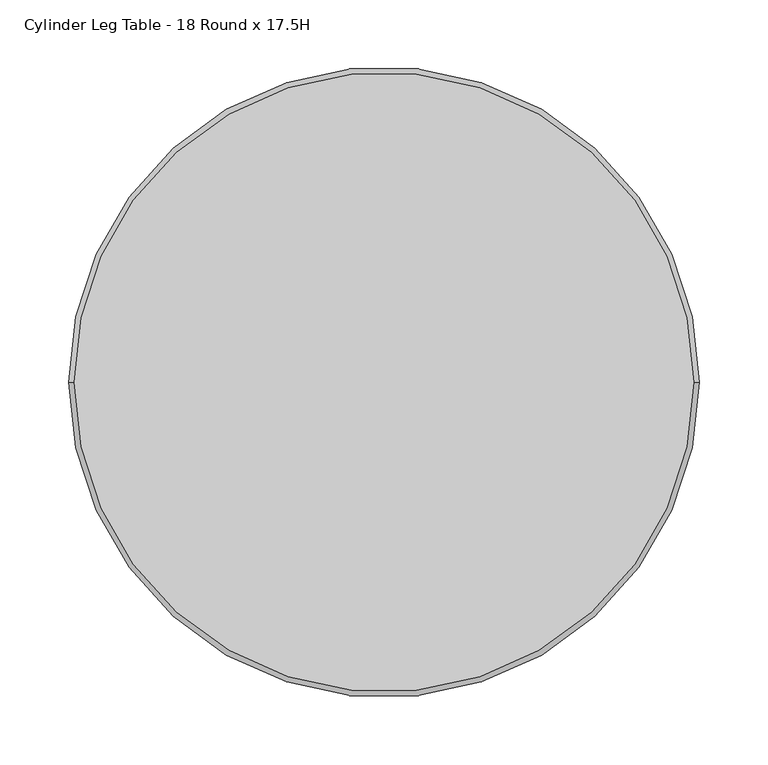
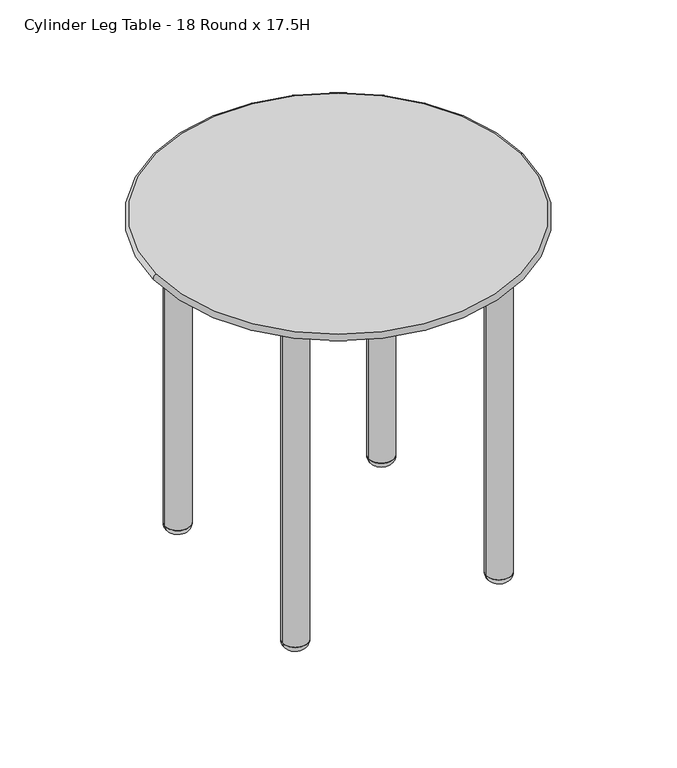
"""IFC4 building model written with IfcOpenShell, lengths in millimetres: furniture geometry, Integra - Coastal Collection - Coastal Metal Tables - Freestanding Table : Cylinder Leg Table - 18 Round x 17.5H."""

from ifc_helpers import new_model, si_unit, point, frame, frame_2d, origin, origin_2d, place, context, project, spatial, circle_curve, ellipse_curve, trimmed, segment, composite_curve, outline, extrude, source, transform, mapped, element, save
from ifc_brep_helpers import plane_surface, revolved_surface, advanced_brep


def cylinder_leg_table_18_round_x_17_5h_52528be8(model_context):
    return source(origin(), model_context, "Body", "SolidModel", [
        advanced_brep(
        [(-203.184015, 0.0, 431.7999939), (203.184015, 0.0, 431.7999939), (224.6380192, 0.0, 444.5), (-224.6380192, 0.0, 444.5), (226.3187402, 0.0, 436.9501969), (-226.3187402, 0.0, 436.9501969)],
        [
            (0, 1, circle_curve(frame((0.0, 0.0, 431.7999939), z_axis=(0.0, 0.0, -1.0), x_axis=(1.0, 0.0, 0.0)), 203.184015)),
            (1, 0, circle_curve(frame((0.0, 0.0, 431.7999939), z_axis=(0.0, 0.0, -1.0), x_axis=(-1.0, 0.0, 0.0)), 203.184015)),
            (2, 3, circle_curve(frame((0.0, 0.0, 444.5), z_axis=(0.0, 0.0, 1.0), x_axis=(1.0, 0.0, 0.0)), 224.6380192)),
            (3, 2, circle_curve(frame((0.0, 0.0, 444.5), z_axis=(0.0, 0.0, 1.0), x_axis=(-1.0, 0.0, 0.0)), 224.6380192)),
            (2, 4, circle_curve(frame((224.6380192, 0.0, 440.5380192), z_axis=(0.0, 1.0, 0.0), x_axis=(-1.0, 0.0, 0.0)), 3.9619808)),
            (4, 5, circle_curve(frame((0.0, 0.0, 436.9501969), z_axis=(0.0, 0.0, 1.0), x_axis=(1.0, 0.0, 0.0)), 226.3187402)),
            (5, 3, circle_curve(frame((-224.6380192, 0.0, 440.5380192), z_axis=(0.0, 1.0, 0.0), x_axis=(1.0, 0.0, 0.0)), 3.9619808)),
            (4, 1, circle_curve(frame((203.184015, 0.0, 486.3357186), z_axis=(0.0, 1.0, 0.0), x_axis=(-1.0, 0.0, 0.0)), 54.5357246)),
            (0, 5, circle_curve(frame((-203.184015, 0.0, 486.3357186), z_axis=(0.0, 1.0, 0.0), x_axis=(1.0, 0.0, 0.0)), 54.5357246)),
            (5, 4, circle_curve(frame((0.0, 0.0, 436.9501969), z_axis=(0.0, 0.0, 1.0), x_axis=(-1.0, 0.0, 0.0)), 226.3187402)),
        ],
        [
            plane_surface(frame((-25.4, 0.0, 431.7999939), z_axis=(0.0, 0.0, -1.0), x_axis=(0.0, 1.0, 0.0))),
            plane_surface(frame((-25.4, 0.0, 444.5), z_axis=(0.0, 0.0, 1.0), x_axis=(0.0, -1.0, 0.0))),
            revolved_surface(trimmed(ellipse_curve(frame((224.6380192, 0.0, 440.5380192), z_axis=(0.0, -1.0, 0.0), x_axis=(-1.0, 0.0, 0.0)), 3.9619808, 3.9619808), [point((226.3187402, 0.0, 436.9501969))], [point((224.6380192, 0.0, 444.5))], True, "CARTESIAN"), (0.0, 0.0, 444.5), (0.0, 0.0, 1.0)),
            revolved_surface(trimmed(ellipse_curve(frame((203.184015, 0.0, 486.3357186), z_axis=(0.0, -1.0, 0.0), x_axis=(-1.0, 0.0, 0.0)), 54.5357246, 54.5357246), [point((203.184015, 0.0, 431.7999939))], [point((226.3187402, 0.0, 436.9501969))], True, "CARTESIAN"), (0.0, 0.0, 444.5), (0.0, 0.0, 1.0)),
            revolved_surface(trimmed(ellipse_curve(frame((-224.6380192, 0.0, 440.5380192), z_axis=(0.0, 1.0, 0.0), x_axis=(1.0, 0.0, 0.0)), 3.9619808, 3.9619808), [point((-226.3187402, 0.0, 436.9501969))], [point((-224.6380192, 0.0, 444.5))], True, "CARTESIAN"), (0.0, 0.0, 444.5), (0.0, 0.0, 1.0)),
            revolved_surface(trimmed(ellipse_curve(frame((-203.184015, 0.0, 486.3357186), z_axis=(0.0, 1.0, 0.0), x_axis=(1.0, 0.0, 0.0)), 54.5357246, 54.5357246), [point((-203.184015, 0.0, 431.7999939))], [point((-226.3187402, 0.0, 436.9501969))], True, "CARTESIAN"), (0.0, 0.0, 444.5), (0.0, 0.0, 1.0)),
        ],
        [
            (0, [[1, 2]]),
            (1, [[3, 4]]),
            (2, [[-3, 5, 6, 7]]),
            (3, [[-6, 8, -1, 9]]),
            (4, [[-5, -4, -7, 10]]),
            (5, [[-8, -10, -9, -2]]),
        ],
    ),
        extrude(outline(composite_curve([segment(trimmed(circle_curve(origin_2d(), 203.2), [point((-203.2, 0.0))], [point((203.2, 0.0))], False, "CARTESIAN"), True, "CONTINUOUS"), segment(trimmed(circle_curve(origin_2d(), 203.2), [point((203.2, 0.0))], [point((-203.2, 0.0))], False, "CARTESIAN"), True, "CONTINUOUS")], self_intersect=False)), frame((0.0, 0.0, 425.4499939), z_axis=(0.0, 0.0, 1.0), x_axis=(1.0, 0.0, 0.0)), (0.0, 0.0, 1.0), 6.35),
        advanced_brep(
        [(-141.3679796, 125.7235857, 9.5239742), (-110.0791918, 125.7235857, 9.5239742), (-125.7235857, 125.7235857, 9.5239742), (-131.8429796, 125.7235857, -0.0010258), (-119.6041918, 125.7235857, -0.0010258), (-125.7235857, 125.7235857, -0.0010258)],
        [
            (0, 1, circle_curve(frame((-125.7235857, 125.7235857, 9.5239742), z_axis=(0.0, 0.0, 1.0), x_axis=(1.0, 0.0, 0.0)), 15.6443939)),
            (1, 2),
            (2, 0),
            (1, 0, circle_curve(frame((-125.7235857, 125.7235857, 9.5239742), z_axis=(0.0, 0.0, 1.0), x_axis=(1.0, 0.0, 0.0)), 15.6443939)),
            (3, 4, circle_curve(frame((-125.7235857, 125.7235857, -0.0010258), z_axis=(0.0, 0.0, 1.0), x_axis=(1.0, 0.0, 0.0)), 6.1193939)),
            (4, 1, circle_curve(frame((-119.6041918, 125.7235857, 9.5239742), z_axis=(0.0, -1.0, 0.0), x_axis=(1.0, 0.0, 0.0)), 9.525)),
            (0, 3, circle_curve(frame((-131.8429796, 125.7235857, 9.5239742), z_axis=(0.0, -1.0, 0.0), x_axis=(-1.0, 0.0, 0.0)), 9.525)),
            (4, 3, circle_curve(frame((-125.7235857, 125.7235857, -0.0010258), z_axis=(0.0, 0.0, 1.0), x_axis=(1.0, 0.0, 0.0)), 6.1193939)),
            (5, 4),
            (3, 5),
        ],
        [
            plane_surface(frame((-125.7235857, 125.7235857, 9.5239742), z_axis=(0.0, 0.0, 1.0), x_axis=(1.0, 0.0, 0.0))),
            revolved_surface(trimmed(ellipse_curve(frame((-119.6041918, 125.7235857, 9.5239742), z_axis=(0.0, 1.0, 0.0), x_axis=(1.0, 0.0, 0.0)), 9.525, 9.525), [point((-110.0791918, 125.7235857, 9.5239742))], [point((-119.6041918, 125.7235857, -0.0010258))], True, "CARTESIAN"), (-125.7235857, 125.7235857, -0.0010258), (0.0, 0.0, -1.0)),
            plane_surface(frame((-125.7235857, 125.7235857, -0.0010258), z_axis=(0.0, 0.0, -1.0), x_axis=(1.0, 0.0, 0.0))),
        ],
        [
            (0, [[1, 2, 3]]),
            (0, [[4, -3, -2]]),
            (1, [[5, 6, -1, 7]]),
            (1, [[8, -7, -4, -6]]),
            (2, [[9, -5, 10]]),
            (2, [[-10, -8, -9]]),
        ],
    ),
        advanced_brep(
        [(-125.7235857, -125.7235857, 9.5239742), (-110.0791918, -125.7235857, 9.5239742), (-141.3679796, -125.7235857, 9.5239742), (-119.6041918, -125.7235857, -0.0010258), (-131.8429796, -125.7235857, -0.0010258), (-125.7235857, -125.7235857, -0.0010258)],
        [
            (0, 1),
            (1, 2, circle_curve(frame((-125.7235857, -125.7235857, 9.5239742), z_axis=(0.0, 0.0, 1.0), x_axis=(1.0, 0.0, 0.0)), 15.6443939)),
            (2, 0),
            (2, 1, circle_curve(frame((-125.7235857, -125.7235857, 9.5239742), z_axis=(0.0, 0.0, 1.0), x_axis=(1.0, 0.0, 0.0)), 15.6443939)),
            (1, 3, circle_curve(frame((-119.6041918, -125.7235857, 9.5239742), z_axis=(0.0, 1.0, 0.0), x_axis=(1.0, 0.0, 0.0)), 9.525)),
            (3, 4, circle_curve(frame((-125.7235857, -125.7235857, -0.0010258), z_axis=(0.0, 0.0, 1.0), x_axis=(1.0, 0.0, 0.0)), 6.1193939)),
            (4, 2, circle_curve(frame((-131.8429796, -125.7235857, 9.5239742), z_axis=(0.0, 1.0, 0.0), x_axis=(-1.0, 0.0, 0.0)), 9.525)),
            (4, 3, circle_curve(frame((-125.7235857, -125.7235857, -0.0010258), z_axis=(0.0, 0.0, 1.0), x_axis=(1.0, 0.0, 0.0)), 6.1193939)),
            (3, 5),
            (5, 4),
        ],
        [
            plane_surface(frame((-125.7235857, -125.7235857, 9.5239742), z_axis=(0.0, 0.0, 1.0), x_axis=(1.0, 0.0, 0.0))),
            revolved_surface(trimmed(ellipse_curve(frame((-119.6041918, -125.7235857, 9.5239742), z_axis=(0.0, -1.0, 0.0), x_axis=(1.0, 0.0, 0.0)), 9.525, 9.525), [point((-119.6041918, -125.7235857, -0.0010258))], [point((-110.0791918, -125.7235857, 9.5239742))], True, "CARTESIAN"), (-125.7235857, -125.7235857, -0.0010258), (0.0, 0.0, 1.0)),
            plane_surface(frame((-125.7235857, -125.7235857, -0.0010258), z_axis=(0.0, 0.0, -1.0), x_axis=(1.0, 0.0, 0.0))),
        ],
        [
            (0, [[1, 2, 3]]),
            (0, [[-3, 4, -1]]),
            (1, [[-2, 5, 6, 7]]),
            (1, [[-4, -7, 8, -5]]),
            (2, [[-6, 9, 10]]),
            (2, [[-8, -10, -9]]),
        ],
    ),
        advanced_brep(
        [(125.7235857, 125.7235857, 9.5239742), (110.0791918, 125.7235857, 9.5239742), (141.3679796, 125.7235857, 9.5239742), (119.6041918, 125.7235857, -0.0010258), (131.8429796, 125.7235857, -0.0010258), (125.7235857, 125.7235857, -0.0010258)],
        [
            (0, 1),
            (1, 2, circle_curve(frame((125.7235857, 125.7235857, 9.5239742), z_axis=(0.0, 0.0, 1.0), x_axis=(-1.0, 0.0, 0.0)), 15.6443939)),
            (2, 0),
            (2, 1, circle_curve(frame((125.7235857, 125.7235857, 9.5239742), z_axis=(0.0, 0.0, 1.0), x_axis=(-1.0, 0.0, 0.0)), 15.6443939)),
            (1, 3, circle_curve(frame((119.6041918, 125.7235857, 9.5239742), z_axis=(0.0, -1.0, 0.0), x_axis=(-1.0, 0.0, 0.0)), 9.525)),
            (3, 4, circle_curve(frame((125.7235857, 125.7235857, -0.0010258), z_axis=(0.0, 0.0, 1.0), x_axis=(-1.0, 0.0, 0.0)), 6.1193939)),
            (4, 2, circle_curve(frame((131.8429796, 125.7235857, 9.5239742), z_axis=(0.0, -1.0, 0.0), x_axis=(1.0, 0.0, 0.0)), 9.525)),
            (4, 3, circle_curve(frame((125.7235857, 125.7235857, -0.0010258), z_axis=(0.0, 0.0, 1.0), x_axis=(-1.0, 0.0, 0.0)), 6.1193939)),
            (3, 5),
            (5, 4),
        ],
        [
            plane_surface(frame((125.7235857, 125.7235857, 9.5239742), z_axis=(0.0, 0.0, 1.0), x_axis=(-1.0, 0.0, 0.0))),
            revolved_surface(trimmed(ellipse_curve(frame((119.6041918, 125.7235857, 9.5239742), z_axis=(0.0, 1.0, 0.0), x_axis=(-1.0, 0.0, 0.0)), 9.525, 9.525), [point((119.6041918, 125.7235857, -0.0010258))], [point((110.0791918, 125.7235857, 9.5239742))], True, "CARTESIAN"), (125.7235857, 125.7235857, -0.0010258), (0.0, 0.0, 1.0)),
            plane_surface(frame((125.7235857, 125.7235857, -0.0010258), z_axis=(0.0, 0.0, -1.0), x_axis=(-1.0, 0.0, 0.0))),
        ],
        [
            (0, [[1, 2, 3]]),
            (0, [[-3, 4, -1]]),
            (1, [[-2, 5, 6, 7]]),
            (1, [[-4, -7, 8, -5]]),
            (2, [[-6, 9, 10]]),
            (2, [[-8, -10, -9]]),
        ],
    ),
        advanced_brep(
        [(141.3679796, -125.7235857, 9.5239742), (110.0791918, -125.7235857, 9.5239742), (125.7235857, -125.7235857, 9.5239742), (131.8429796, -125.7235857, -0.0010258), (119.6041918, -125.7235857, -0.0010258), (125.7235857, -125.7235857, -0.0010258)],
        [
            (0, 1, circle_curve(frame((125.7235857, -125.7235857, 9.5239742), z_axis=(0.0, 0.0, 1.0), x_axis=(-1.0, 0.0, 0.0)), 15.6443939)),
            (1, 2),
            (2, 0),
            (1, 0, circle_curve(frame((125.7235857, -125.7235857, 9.5239742), z_axis=(0.0, 0.0, 1.0), x_axis=(-1.0, 0.0, 0.0)), 15.6443939)),
            (3, 4, circle_curve(frame((125.7235857, -125.7235857, -0.0010258), z_axis=(0.0, 0.0, 1.0), x_axis=(-1.0, 0.0, 0.0)), 6.1193939)),
            (4, 1, circle_curve(frame((119.6041918, -125.7235857, 9.5239742), z_axis=(0.0, 1.0, 0.0), x_axis=(-1.0, 0.0, 0.0)), 9.525)),
            (0, 3, circle_curve(frame((131.8429796, -125.7235857, 9.5239742), z_axis=(0.0, 1.0, 0.0), x_axis=(1.0, 0.0, 0.0)), 9.525)),
            (4, 3, circle_curve(frame((125.7235857, -125.7235857, -0.0010258), z_axis=(0.0, 0.0, 1.0), x_axis=(-1.0, 0.0, 0.0)), 6.1193939)),
            (5, 4),
            (3, 5),
        ],
        [
            plane_surface(frame((125.7235857, -125.7235857, 9.5239742), z_axis=(0.0, 0.0, 1.0), x_axis=(-1.0, 0.0, 0.0))),
            revolved_surface(trimmed(ellipse_curve(frame((119.6041918, -125.7235857, 9.5239742), z_axis=(0.0, -1.0, 0.0), x_axis=(-1.0, 0.0, 0.0)), 9.525, 9.525), [point((110.0791918, -125.7235857, 9.5239742))], [point((119.6041918, -125.7235857, -0.0010258))], True, "CARTESIAN"), (125.7235857, -125.7235857, -0.0010258), (0.0, 0.0, -1.0)),
            plane_surface(frame((125.7235857, -125.7235857, -0.0010258), z_axis=(0.0, 0.0, -1.0), x_axis=(-1.0, 0.0, 0.0))),
        ],
        [
            (0, [[1, 2, 3]]),
            (0, [[4, -3, -2]]),
            (1, [[5, 6, -1, 7]]),
            (1, [[8, -7, -4, -6]]),
            (2, [[9, -5, 10]]),
            (2, [[-10, -8, -9]]),
        ],
    ),
        extrude(outline(composite_curve([segment(trimmed(circle_curve(frame_2d((125.7235857, 125.7235857)), 15.6443939), [point((110.0791918, 125.7235857))], [point((141.3679796, 125.7235857))], False, "CARTESIAN"), True, "CONTINUOUS"), segment(trimmed(circle_curve(frame_2d((125.7235857, 125.7235857)), 15.6443939), [point((141.3679796, 125.7235857))], [point((110.0791918, 125.7235857))], False, "CARTESIAN"), True, "CONTINUOUS")], self_intersect=False)), frame((0.0, 0.0, 9.5366915), z_axis=(0.0, 0.0, 1.0), x_axis=(1.0, 0.0, 0.0)), (0.0, 0.0, 1.0), 415.9133025),
        extrude(outline(composite_curve([segment(trimmed(circle_curve(frame_2d((125.7235857, -125.7235857)), 15.6443939), [point((110.0791918, -125.7235857))], [point((141.3679796, -125.7235857))], False, "CARTESIAN"), True, "CONTINUOUS"), segment(trimmed(circle_curve(frame_2d((125.7235857, -125.7235857)), 15.6443939), [point((141.3679796, -125.7235857))], [point((110.0791918, -125.7235857))], False, "CARTESIAN"), True, "CONTINUOUS")], self_intersect=False)), frame((0.0, 0.0, 9.5366915), z_axis=(0.0, 0.0, 1.0), x_axis=(1.0, 0.0, 0.0)), (0.0, 0.0, 1.0), 415.9133025),
        extrude(outline(composite_curve([segment(trimmed(circle_curve(frame_2d((-125.7235857, 125.7235857)), 15.6443939), [point((-141.3679796, 125.7235857))], [point((-110.0791918, 125.7235857))], False, "CARTESIAN"), True, "CONTINUOUS"), segment(trimmed(circle_curve(frame_2d((-125.7235857, 125.7235857)), 15.6443939), [point((-110.0791918, 125.7235857))], [point((-141.3679796, 125.7235857))], False, "CARTESIAN"), True, "CONTINUOUS")], self_intersect=False)), frame((0.0, 0.0, 9.5366915), z_axis=(0.0, 0.0, 1.0), x_axis=(1.0, 0.0, 0.0)), (0.0, 0.0, 1.0), 415.9133025),
        extrude(outline(composite_curve([segment(trimmed(circle_curve(frame_2d((-125.7235857, -125.7235857)), 15.6443939), [point((-141.3679796, -125.7235857))], [point((-110.0791918, -125.7235857))], False, "CARTESIAN"), True, "CONTINUOUS"), segment(trimmed(circle_curve(frame_2d((-125.7235857, -125.7235857)), 15.6443939), [point((-110.0791918, -125.7235857))], [point((-141.3679796, -125.7235857))], False, "CARTESIAN"), True, "CONTINUOUS")], self_intersect=False)), frame((0.0, 0.0, 9.5366915), z_axis=(0.0, 0.0, 1.0), x_axis=(1.0, 0.0, 0.0)), (0.0, 0.0, 1.0), 415.9133025),
    ])


if __name__ == "__main__":
    model = new_model("IFC4")
    model_context = context("Model", 3, world=origin())
    ifc_project = project(units=[si_unit("LENGTHUNIT", "METRE", prefix="MILLI")], contexts=[model_context])
    site = spatial("IfcSite", under=ifc_project)
    building = spatial("IfcBuilding", under=site)
    placement = place(None, origin())
    cylinder_leg_table_18_round_x_17_5h_shape = cylinder_leg_table_18_round_x_17_5h_52528be8(model_context)
    element("IfcFurniture", 1, ObjectType="Integra - Coastal Collection - Coastal Metal Tables - Freestanding Table : Cylinder Leg Table - 18 Round x 17.5H", at=placement, inside=building, context=model_context, shape_type="MappedRepresentation", body=[
        mapped(cylinder_leg_table_18_round_x_17_5h_shape, transform((0.0, 0.0, 0.0), x_axis=(1.0, 0.0, 0.0), y_axis=(0.0, 1.0, 0.0), z_axis=(0.0, 0.0, 1.0))),
    ])
    save(model, "model.ifc")
